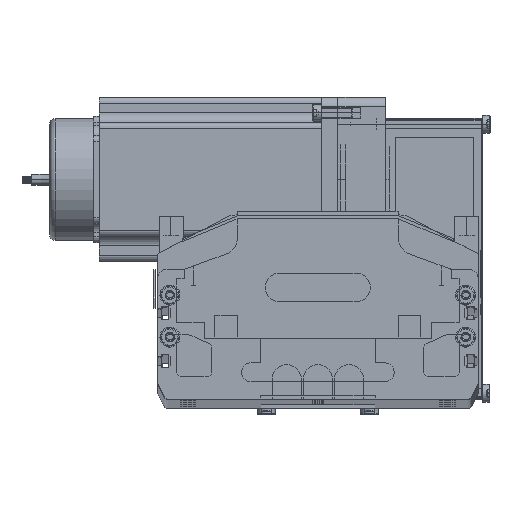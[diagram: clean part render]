
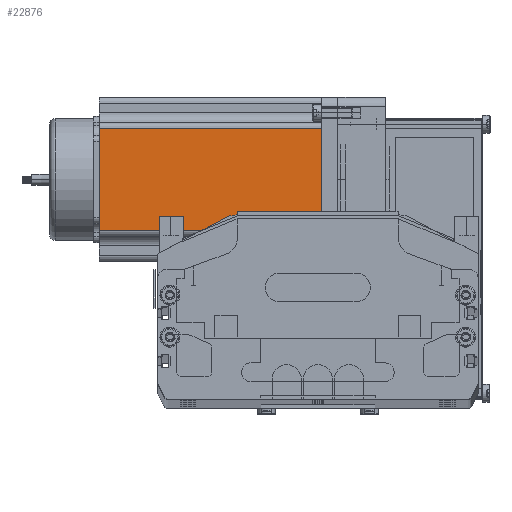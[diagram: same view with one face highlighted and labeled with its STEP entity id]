
A CAD part, top view. The second image highlights one B-rep face of the part: STEP entity #22876.
In plain terms, the highlighted planar face has unit normal (0, 0, 1) as drawn and (0, -1, 0) by its records, which use the part's own axes.
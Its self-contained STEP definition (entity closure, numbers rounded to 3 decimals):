
#22845 = VERTEX_POINT ( 'NONE', #61170 ) ;
#22861 = ORIENTED_EDGE ( 'NONE', *, *, #23038, .T. ) ;
#22869 = EDGE_CURVE ( 'NONE', #22845, #30827, #61399, .T. ) ;
#22875 = ORIENTED_EDGE ( 'NONE', *, *, #22869, .T. ) ;
#22876 = ADVANCED_FACE ( 'NONE', ( #61248 ), #61298, .F. ) ;
#23032 = ORIENTED_EDGE ( 'NONE', *, *, #26848, .T. ) ;
#23038 = EDGE_CURVE ( 'NONE', #30989, #26922, #61958, .T. ) ;
#23042 = EDGE_LOOP ( 'NONE', ( #23032, #22875, #30985, #22861 ) ) ;
#26848 = EDGE_CURVE ( 'NONE', #26922, #22845, #66801, .T. ) ;
#26922 = VERTEX_POINT ( 'NONE', #66968 ) ;
#30827 = VERTEX_POINT ( 'NONE', #69371 ) ;
#30985 = ORIENTED_EDGE ( 'NONE', *, *, #30987, .F. ) ;
#30987 = EDGE_CURVE ( 'NONE', #30989, #30827, #69429, .T. ) ;
#30989 = VERTEX_POINT ( 'NONE', #69522 ) ;
#61170 = CARTESIAN_POINT ( 'NONE',  ( 69.74, 0., 0. ) ) ;
#61248 = FACE_OUTER_BOUND ( 'NONE', #23042, .T. ) ;
#61274 = AXIS2_PLACEMENT_3D ( 'NONE', #61392, #61372, #61370 ) ;
#61298 = PLANE ( 'NONE',  #61274 ) ;
#61370 = DIRECTION ( 'NONE',  ( 0., 0., 1. ) ) ;
#61372 = DIRECTION ( 'NONE',  ( 0., 1., 0. ) ) ;
#61392 = CARTESIAN_POINT ( 'NONE',  ( 0., 0., 116.5 ) ) ;
#61395 = DIRECTION ( 'NONE',  ( 0., 0., 1. ) ) ;
#61397 = VECTOR ( 'NONE', #61395, 1000. ) ;
#61398 = CARTESIAN_POINT ( 'NONE',  ( 69.74, 0., 116.5 ) ) ;
#61399 = LINE ( 'NONE', #61398, #61397 ) ;
#61958 = LINE ( 'NONE', #62048, #62046 ) ;
#62044 = DIRECTION ( 'NONE',  ( 0., 0., -1. ) ) ;
#62046 = VECTOR ( 'NONE', #62044, 1000. ) ;
#62048 = CARTESIAN_POINT ( 'NONE',  ( 16.16, 0., 116.5 ) ) ;
#66799 = CARTESIAN_POINT ( 'NONE',  ( 0., 0., 0. ) ) ;
#66801 = LINE ( 'NONE', #66799, #66872 ) ;
#66871 = DIRECTION ( 'NONE',  ( 1., 0., 0. ) ) ;
#66872 = VECTOR ( 'NONE', #66871, 1000. ) ;
#66968 = CARTESIAN_POINT ( 'NONE',  ( 16.16, 0., 0. ) ) ;
#69371 = CARTESIAN_POINT ( 'NONE',  ( 69.74, 0., 116.5 ) ) ;
#69429 = LINE ( 'NONE', #69517, #69515 ) ;
#69514 = DIRECTION ( 'NONE',  ( 1., 0., 0. ) ) ;
#69515 = VECTOR ( 'NONE', #69514, 1000. ) ;
#69517 = CARTESIAN_POINT ( 'NONE',  ( 0., 0., 116.5 ) ) ;
#69522 = CARTESIAN_POINT ( 'NONE',  ( 16.16, 0., 116.5 ) ) ;
